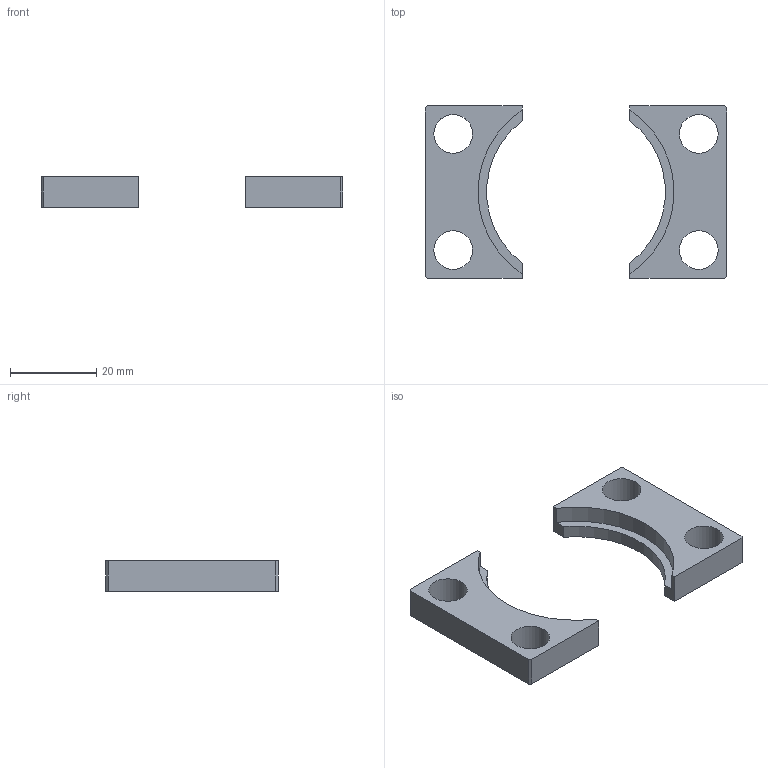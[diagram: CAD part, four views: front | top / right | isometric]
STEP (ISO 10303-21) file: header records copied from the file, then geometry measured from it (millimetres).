
FILE_DESCRIPTION(/* description */ (''),/* implementation_level */ '2;1');
FILE_NAME(/* name */ 'C:\Users\Jefferson\Desktop\Biblioteca Pro Nitro 2024\Flanges\PNB-32-XXX\PNB-32-045.stp',/* time_stamp */ '2024-01-10T17:03:08-03:00',/* author */ ('Jefferson'),/* organization */ (''),/* preprocessor_version */ 'ST-DEVELOPER v18.1',/* originating_system */ 'Autodesk Inventor 2021',/* authorisation */ '');
FILE_SCHEMA (('AUTOMOTIVE_DESIGN { 1 0 10303 214 3 1 1 }'));
Length unit declared in the file: millimetre
Products named in the file (1): PNB-32-045
Bounding box: 70 x 40 x 7 mm (x, y, z)
Volume: 7474.2 mm3; surface area: 4955.2 mm2
Topology: 2 solids, 2 shells, 191 faces, 516 edges, 344 vertices
Faces by surface type: plane 106, bspline 77, cylinder 8
Full cylindrical faces by diameter (mm): 9 x4
Entity records: 6404 total; most frequent: CARTESIAN_POINT 2053, ORIENTED_EDGE 1032, DIRECTION 608, EDGE_CURVE 516, LINE 346, VECTOR 346, VERTEX_POINT 344, EDGE_LOOP 214
